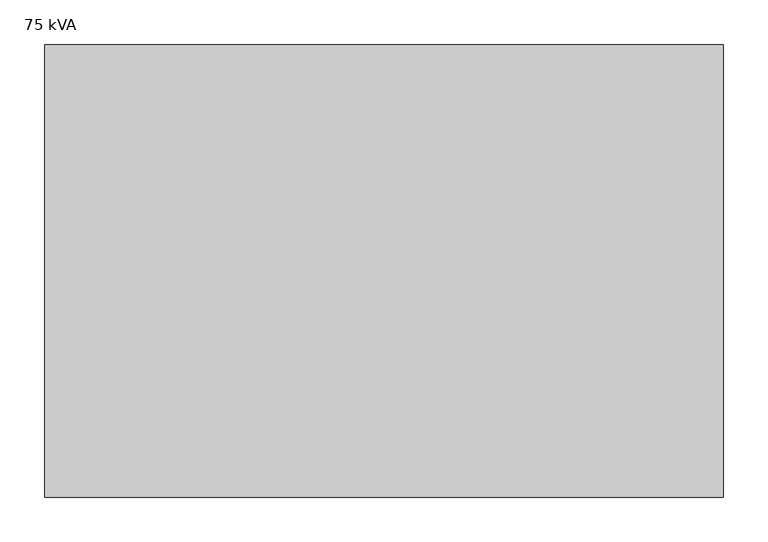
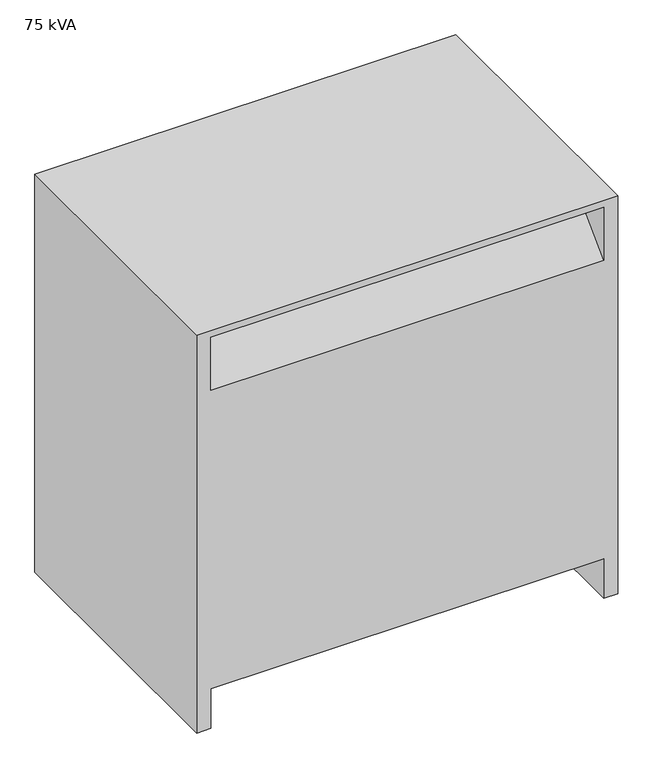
"""IFC4 building model written with IfcOpenShell, lengths in millimetres: proxy geometry, Dry Type Transformer - 480-208Y120 - NEMA Type 2 : 75 kVA."""

from ifc_helpers import new_model, si_unit, origin, place, context, project, spatial, faceted_brep, source, transform, mapped, element, save


def proxy_75_kva_46ae6ed2(model_context):
    return source(origin(), model_context, "Body", "Brep", [
        faceted_brep([(381.0, -123.2841349, 762.0), (381.0, 384.7158651, 762.0), (-381.0, 384.7158651, 762.0), (-381.0, -123.2841349, 762.0), (-381.0, -123.2841349, 0.0), (-381.0, 384.7158651, 0.0), (-355.6, 384.7158651, 0.0), (-355.6, -123.2841349, 0.0), (381.0, 384.7158651, 0.0), (381.0, -123.2841349, 0.0), (355.6, -123.2841349, 0.0), (355.6, 384.7158651, 0.0), (355.6, 384.7158651, 76.2), (-355.6, 384.7158651, 76.2), (355.6, 384.7158651, 647.7), (355.6, 384.7158651, 749.3), (-355.6, 384.7158651, 749.3), (-355.6, 384.7158651, 647.7), (-355.6, -123.2841349, 76.2), (355.6, -123.2841349, 76.2), (355.6, -123.2841349, 749.3), (355.6, -123.2841349, 647.7), (-355.6, -123.2841349, 647.7), (-355.6, -123.2841349, 749.3), (355.6, -21.6841349, 749.3), (-355.6, -21.6841349, 749.3), (355.6, 283.1158651, 749.3), (-355.6, 283.1158651, 749.3)], [[[0, 1, 2, 3]], [[4, 5, 6, 7]], [[8, 9, 10, 11]], [[1, 0, 9, 8]], [[2, 1, 8, 11, 12, 13, 6, 5], [14, 15, 16, 17]], [[3, 2, 5, 4]], [[0, 3, 4, 7, 18, 19, 10, 9], [20, 21, 22, 23]], [[18, 13, 12, 19]], [[13, 18, 7, 6]], [[19, 12, 11, 10]], [[24, 21, 20]], [[25, 23, 22]], [[24, 20, 23, 25]], [[21, 24, 25, 22]], [[26, 15, 14]], [[27, 17, 16]], [[26, 14, 17, 27]], [[15, 26, 27, 16]]]),
    ])


if __name__ == "__main__":
    model = new_model("IFC4")
    model_context = context("Model", 3, world=origin())
    ifc_project = project(units=[si_unit("LENGTHUNIT", "METRE", prefix="MILLI")], contexts=[model_context])
    site = spatial("IfcSite", under=ifc_project)
    building = spatial("IfcBuilding", under=site)
    placement = place(None, origin())
    proxy_75_kva_shape = proxy_75_kva_46ae6ed2(model_context)
    element("IfcBuildingElementProxy", 1, Name="Dry Type Transformer - 480-208Y120 - NEMA Type 2 : 75 kVA", ObjectType="Dry Type Transformer - 480-208Y120 - NEMA Type 2 : 75 kVA", at=placement, inside=building, context=model_context, shape_type="MappedRepresentation", body=[
        mapped(proxy_75_kva_shape, transform((0.0, 0.0, 0.0), x_axis=(1.0, 0.0, 0.0), y_axis=(0.0, 1.0, 0.0), z_axis=(0.0, 0.0, 1.0))),
    ])
    save(model, "model.ifc")
